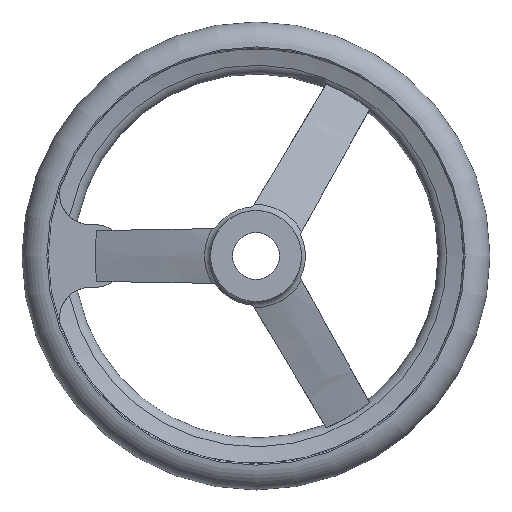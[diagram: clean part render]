
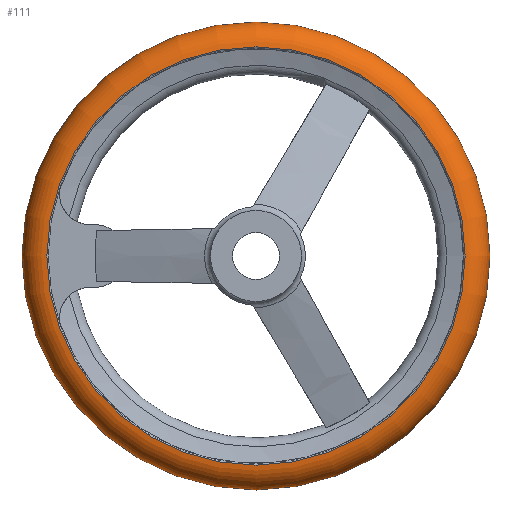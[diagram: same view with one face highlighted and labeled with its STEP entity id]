
A CAD part, left-side view. The second image highlights one B-rep face of the part: STEP entity #111.
In plain terms, the highlighted toroidal (fillet/blend) face has major radius 79.991 mm and minor radius 10.009 mm.
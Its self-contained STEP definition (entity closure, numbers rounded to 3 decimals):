
#111 = ADVANCED_FACE( '', ( #203, #204, #205 ), #206, .T. );
#203 = FACE_BOUND( '', #299, .T. );
#204 = FACE_OUTER_BOUND( '', #300, .T. );
#205 = FACE_OUTER_BOUND( '', #301, .T. );
#206 = TOROIDAL_SURFACE( '', #302, 79.991, 10.009 );
#299 = VERTEX_LOOP( '', #595 );
#300 = EDGE_LOOP( '', ( #596 ) );
#301 = EDGE_LOOP( '', ( #597 ) );
#302 = AXIS2_PLACEMENT_3D( '', #598, #599, #600 );
#595 = VERTEX_POINT( '', #716 );
#596 = ORIENTED_EDGE( '', *, *, #715, .T. );
#597 = ORIENTED_EDGE( '', *, *, #706, .F. );
#598 = CARTESIAN_POINT( '', ( 33., 0., 0. ) );
#599 = DIRECTION( '', ( -1., 0., 0. ) );
#600 = DIRECTION( '', ( 0., -1., 0. ) );
#706 = EDGE_CURVE( '', #869, #869, #870, .T. );
#715 = EDGE_CURVE( '', #881, #881, #882, .T. );
#716 = CARTESIAN_POINT( '', ( 33., -90., 0. ) );
#869 = VERTEX_POINT( '', #1464 );
#870 = CIRCLE( '', #1465, 80.417 );
#881 = VERTEX_POINT( '', #1476 );
#882 = CIRCLE( '', #1477, 80.417 );
#1464 = CARTESIAN_POINT( '', ( 23., -80.417, 0. ) );
#1465 = AXIS2_PLACEMENT_3D( '', #1592, #1593, #1594 );
#1476 = CARTESIAN_POINT( '', ( 43., -80.417, 0. ) );
#1477 = AXIS2_PLACEMENT_3D( '', #1619, #1620, #1621 );
#1592 = CARTESIAN_POINT( '', ( 23., 0., 0. ) );
#1593 = DIRECTION( '', ( -1., 0., 0. ) );
#1594 = DIRECTION( '', ( 0., -1., 0. ) );
#1619 = CARTESIAN_POINT( '', ( 43., 0., 0. ) );
#1620 = DIRECTION( '', ( -1., 0., 0. ) );
#1621 = DIRECTION( '', ( 0., -1., 0. ) );
